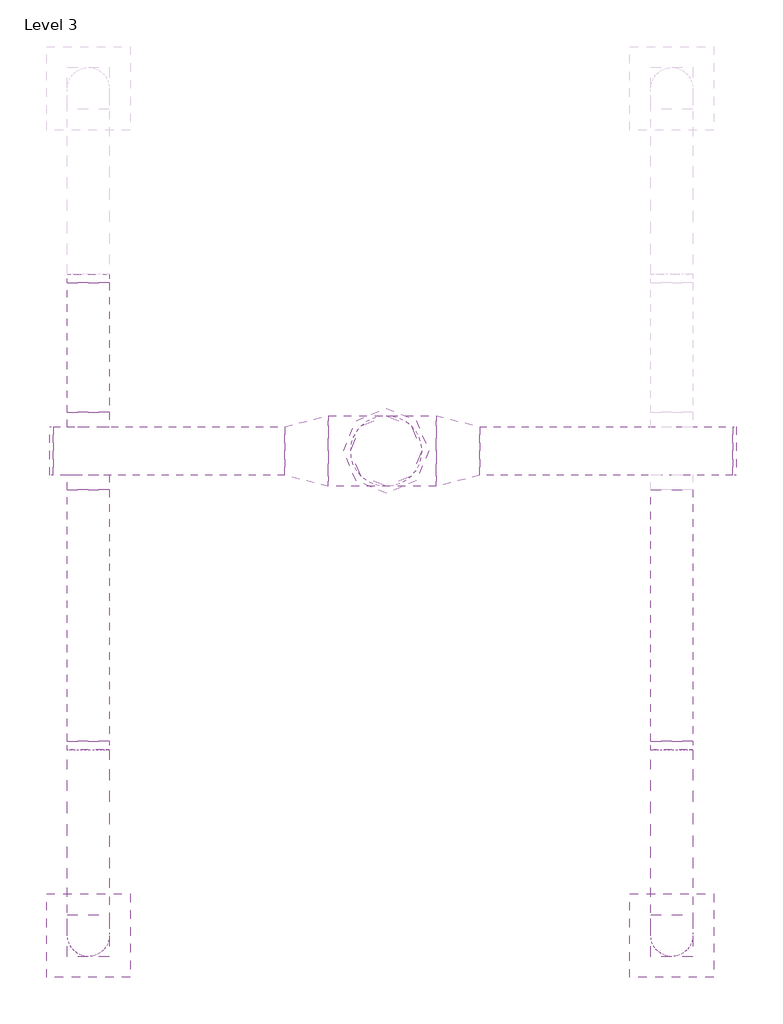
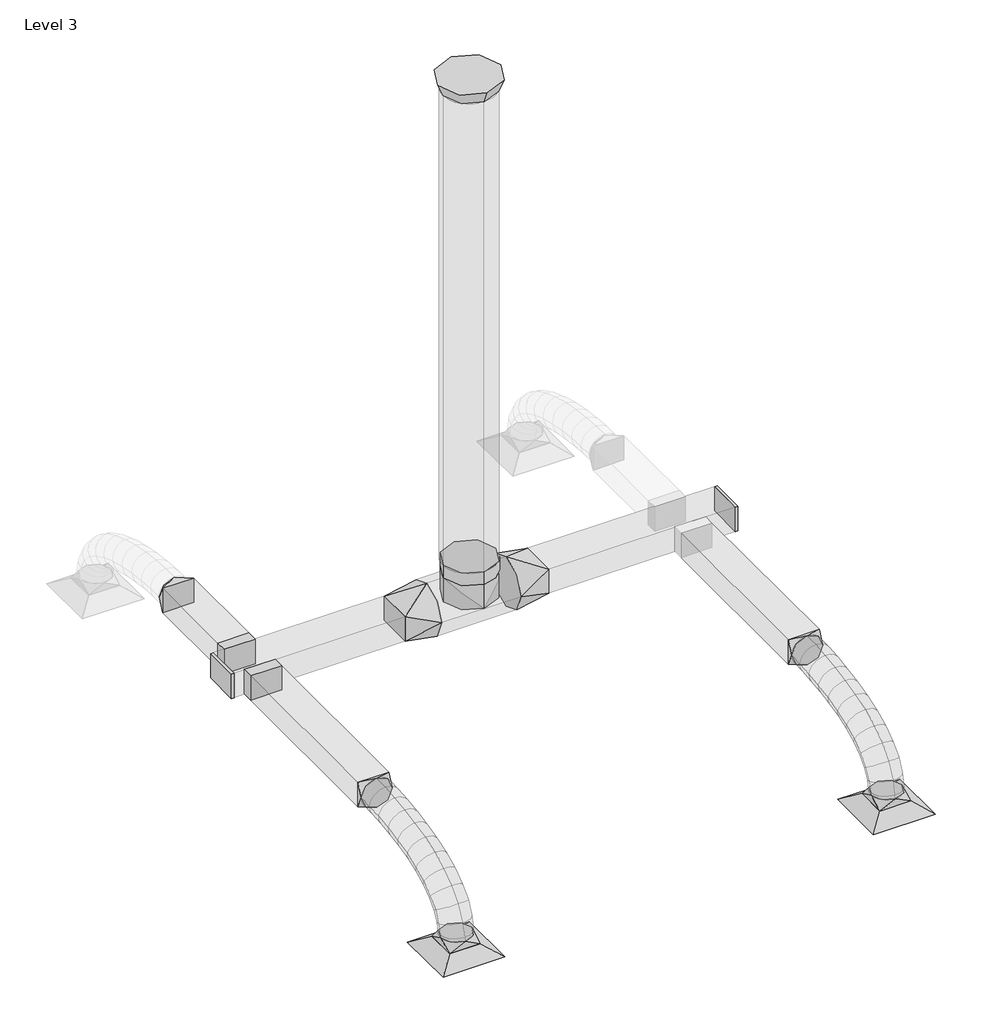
# One storey, part 1 of 2: 13 duct fittings, 9 duct segments, 2 air terminals.
"""IFC4 building model written with IfcOpenShell, lengths in millimetres."""

from ifc_helpers import new_model, si_unit, point, frame, frame_2d, origin, place, context, project, spatial, polyline, circle_curve, ellipse_curve, trimmed, segment, composite_curve, outline, extrude, transform, mapped, element, save
from ifc_brep_helpers import plane_surface, cylinder_surface, advanced_brep
from components import extract_grille_600_x_600_face_300_x_300_connection_2ef68f4f, extract_grille_600_x_600_face_300_x_300_connection_8a0e72a1, rectangular_endcap_standard_a014d959, rectangular_takeoff_standard_6cc22b3a, rectangular_to_round_transition_angle_45_degree_641efff0, rectangular_to_round_transition_angle_45_degree_86e8342e, rectangular_to_round_transition_angle_45_degree_f64e0d1d, round_takeoff_standard_6a2d3c00, round_transition_angle_45_degree_fbcaaa33

model = new_model("IFC4")

# Units and contexts
model_context = context("Model", 3, world=origin())
ifc_project = project(units=[si_unit("LENGTHUNIT", "METRE", prefix="MILLI")], contexts=[model_context])

# Site, building, storey
site = spatial("IfcSite", under=ifc_project)
building = spatial("IfcBuilding", under=site)
storey = spatial("IfcBuildingStorey", under=building, Name="Level 3", Elevation=10795.0)

# Air terminals
placement = place(None, origin())
extract_grille_600_x_600_face_300_x_300_connection_shape = extract_grille_600_x_600_face_300_x_300_connection_2ef68f4f(model_context)
element("IfcAirTerminal", 1, ObjectType="Extract Grille : 600 x 600 Face 300 x 300 Connection", at=placement, inside=storey, context=model_context, shape_type="MappedRepresentation", body=[
    mapped(extract_grille_600_x_600_face_300_x_300_connection_shape, transform((-9996.8271189, -4743.8414421, 13795.0), x_axis=(-1.0, 0.0, 0.0), y_axis=(0.0, -1.0, 0.0), z_axis=(0.0, 0.0, 1.0))),
])
extract_grille_600_x_600_face_300_x_300_connection_2_shape = extract_grille_600_x_600_face_300_x_300_connection_8a0e72a1(model_context)
element("IfcAirTerminal", 2, ObjectType="Extract Grille : 600 x 600 Face 300 x 300 Connection", at=placement, inside=storey, context=model_context, shape_type="MappedRepresentation", body=[
    mapped(extract_grille_600_x_600_face_300_x_300_connection_2_shape, transform((-14175.3843533, -4743.8414421, 13795.0), x_axis=(1.0, 0.0, 0.0), y_axis=(0.0, 1.0, 0.0), z_axis=(0.0, 0.0, 1.0))),
])

# Duct fittings
rectangular_endcap_standard_shape = rectangular_endcap_standard_a014d959(model_context)
element("IfcDuctFitting", 3, ObjectType="Rectangular Endcap : Standard", at=placement, inside=storey, context=model_context, shape_type="MappedRepresentation", body=[
    mapped(rectangular_endcap_standard_shape, transform((-9561.3497202, -1273.030611, 14595.0), x_axis=(1.0, 0.0, 0.0), y_axis=(0.0, 1.0, 0.0), z_axis=(0.0, 0.0, 1.0))),
])
element("IfcDuctFitting", 4, ObjectType="Rectangular Endcap : Standard", at=placement, inside=storey, context=model_context, shape_type="MappedRepresentation", body=[
    mapped(rectangular_endcap_standard_shape, transform((-14428.5896907, -1273.030611, 14595.0), x_axis=(-1.0, 0.0, 0.0), y_axis=(0.0, -1.0, 0.0), z_axis=(0.0, 0.0, 1.0))),
])
rectangular_takeoff_standard_shape = rectangular_takeoff_standard_6cc22b3a(model_context)
element("IfcDuctFitting", 5, ObjectType="Rectangular Takeoff : Standard", at=placement, inside=storey, context=model_context, shape_type="MappedRepresentation", body=[
    mapped(rectangular_takeoff_standard_shape, transform((-14175.3843533, -1448.030611, 14595.0), x_axis=(0.0, -1.0, 0.0), y_axis=(-1.0, 0.0, 0.0), z_axis=(0.0, 0.0, -1.0))),
])
element("IfcDuctFitting", 6, ObjectType="Rectangular Takeoff : Standard", at=placement, inside=storey, context=model_context, shape_type="MappedRepresentation", body=[
    mapped(rectangular_takeoff_standard_shape, transform((-14175.3843533, -1098.030611, 14595.0), x_axis=(0.0, 1.0, 0.0), y_axis=(-1.0, 0.0, 0.0), z_axis=(0.0, 0.0, 1.0))),
])
rectangular_to_round_transition_angle_45_degree_shape = rectangular_to_round_transition_angle_45_degree_641efff0(model_context)
element("IfcDuctFitting", 7, ObjectType="Rectangular to Round Transition - Angle : 45 Degree", at=placement, inside=storey, context=model_context, shape_type="MappedRepresentation", body=[
    mapped(rectangular_to_round_transition_angle_45_degree_shape, transform((-9996.8271189, -4743.8414421, 13895.0), x_axis=(0.0, 0.0, 1.0), y_axis=(-1.0, 0.0, 0.0), z_axis=(0.0, -1.0, 0.0))),
])
element("IfcDuctFitting", 8, ObjectType="Rectangular to Round Transition - Angle : 45 Degree", at=placement, inside=storey, context=model_context, shape_type="MappedRepresentation", body=[
    mapped(rectangular_to_round_transition_angle_45_degree_shape, transform((-14175.3843533, -4743.8414421, 13895.0), x_axis=(0.0, 0.0, 1.0), y_axis=(-1.0, 0.0, 0.0), z_axis=(0.0, -1.0, 0.0))),
])
rectangular_to_round_transition_angle_45_degree_2_shape = rectangular_to_round_transition_angle_45_degree_86e8342e(model_context)
element("IfcDuctFitting", 9, ObjectType="Rectangular to Round Transition - Angle : 45 Degree", at=placement, inside=storey, context=model_context, shape_type="MappedRepresentation", body=[
    mapped(rectangular_to_round_transition_angle_45_degree_2_shape, transform((-12768.5896907, -1273.030611, 14595.0), x_axis=(1.0, 0.0, 0.0), y_axis=(0.0, 1.0, 0.0), z_axis=(0.0, 0.0, 1.0))),
])
element("IfcDuctFitting", 10, ObjectType="Rectangular to Round Transition - Angle : 45 Degree", at=placement, inside=storey, context=model_context, shape_type="MappedRepresentation", body=[
    mapped(rectangular_to_round_transition_angle_45_degree_2_shape, transform((-11372.7832697, -1273.030611, 14595.0), x_axis=(-1.0, 0.0, 0.0), y_axis=(0.0, -1.0, 0.0), z_axis=(0.0, 0.0, 1.0))),
])
rectangular_to_round_transition_angle_45_degree_3_shape = rectangular_to_round_transition_angle_45_degree_f64e0d1d(model_context)
element("IfcDuctFitting", 11, ObjectType="Rectangular to Round Transition - Angle : 45 Degree", at=placement, inside=storey, context=model_context, shape_type="MappedRepresentation", body=[
    mapped(rectangular_to_round_transition_angle_45_degree_3_shape, transform((-14175.3843533, -3351.4375451, 14595.0), x_axis=(0.0, -1.0, 0.0), y_axis=(1.0, 0.0, 0.0), z_axis=(0.0, 0.0, 1.0))),
])
element("IfcDuctFitting", 12, ObjectType="Rectangular to Round Transition - Angle : 45 Degree", at=placement, inside=storey, context=model_context, shape_type="MappedRepresentation", body=[
    mapped(rectangular_to_round_transition_angle_45_degree_3_shape, transform((-14175.3843533, -68.3400331, 14595.0), x_axis=(0.0, 1.0, 0.0), y_axis=(-1.0, 0.0, 0.0), z_axis=(0.0, 0.0, 1.0))),
])
element("IfcDuctFitting", 13, ObjectType="Rectangular to Round Transition - Angle : 45 Degree", at=placement, inside=storey, context=model_context, shape_type="MappedRepresentation", body=[
    mapped(rectangular_to_round_transition_angle_45_degree_3_shape, transform((-9996.8271189, -3351.4375451, 14595.0), x_axis=(0.0, -1.0, 0.0), y_axis=(1.0, 0.0, 0.0), z_axis=(0.0, 0.0, 1.0))),
])
round_takeoff_standard_shape = round_takeoff_standard_6a2d3c00(model_context)
element("IfcDuctFitting", 14, ObjectType="Round Takeoff : Standard", at=placement, inside=storey, context=model_context, shape_type="MappedRepresentation", body=[
    mapped(round_takeoff_standard_shape, transform((-12042.9807361, -1273.030611, 14849.0), x_axis=(0.0, 0.0, 1.0), y_axis=(0.0, -1.0, 0.0), z_axis=(1.0, 0.0, 0.0))),
])
round_transition_angle_45_degree_shape = round_transition_angle_45_degree_fbcaaa33(model_context)
element("IfcDuctFitting", 15, ObjectType="Round Transition - Angle : 45 Degree", at=placement, inside=storey, context=model_context, shape_type="MappedRepresentation", body=[
    mapped(round_transition_angle_45_degree_shape, transform((-12042.9807361, -1273.030611, 19797.3506889), x_axis=(0.0, 0.0, 1.0), y_axis=(0.0, -1.0, 0.0), z_axis=(1.0, 0.0, 0.0))),
])

# Duct segments
element("IfcDuctSegment", 16, ObjectType="Flex - Round", at=placement, inside=storey, context=model_context, shape_type="AdvancedBrep", body=[
    advanced_brep(
    [(-9846.8271189, -4743.8414421, 13970.0), (-9996.8271189, -4893.8414421, 13970.0), (-10146.8271189, -4743.8414421, 13970.0), (-9996.8271189, -4593.8414421, 13970.0), (-9846.8271189, -4743.8414421, 13993.6443246), (-9996.8271189, -4893.8414421, 14008.2658212), (-10146.8271189, -4743.8414421, 13993.6443246), (-9996.8271189, -4593.8414421, 13979.0228281), (-9846.8271189, -4723.8717652, 14095.1041731), (-9996.8271189, -4866.8969651, 14145.162506), (-10146.8271189, -4723.8717652, 14095.1041731), (-9996.8271189, -4580.8465654, 14045.0458401), (-9846.8271189, -4667.5471392, 14203.5571901), (-9996.8271189, -4791.0678506, 14291.171398), (-10146.8271189, -4667.5471392, 14203.5571901), (-9996.8271189, -4544.0264277, 14115.9429823), (-9846.8271189, -4580.2441705, 14296.3570371), (-9996.8271189, -4678.6394763, 14410.6786277), (-10146.8271189, -4580.2441705, 14296.3570371), (-9996.8271189, -4481.8488647, 14182.0354465), (-9846.8271189, -4467.3394659, 14374.5016999), (-9996.8271189, -4543.1691982, 14504.4415868), (-10146.8271189, -4467.3394659, 14374.5016999), (-9996.8271189, -4391.5097336, 14244.561813), (-9846.8271189, -4334.209632, 14438.9891644), (-9996.8271189, -4391.8847498, 14577.7230611), (-10146.8271189, -4334.209632, 14438.9891644), (-9996.8271189, -4276.5345142, 14300.2552678), (-9846.8271189, -4186.2312753, 14490.8174166), (-9996.8271189, -4229.6445513, 14634.5464109), (-10146.8271189, -4186.2312753, 14490.8174166), (-9996.8271189, -4142.8179994, 14347.0884224), (-9846.8271189, -4028.7810027, 14530.9844424), (-9996.8271189, -4060.8334144, 14677.6116986), (-10146.8271189, -4028.7810027, 14530.9844424), (-9996.8271189, -3996.7285909, 14384.3571863), (-9846.8271189, -3867.2354206, 14560.4882277), (-9996.8271189, -3889.9425265, 14708.8222585), (-10146.8271189, -3867.2354206, 14560.4882277), (-9996.8271189, -3844.5283146, 14412.154197), (-9846.8271189, -3706.9711357, 14580.3267585), (-9996.8271189, -3721.6342823, 14729.6565216), (-10146.8271189, -3706.9711357, 14580.3267585), (-9996.8271189, -3692.3079891, 14430.9969954), (-9846.8271189, -3553.3647547, 14591.4980206), (-9996.8271189, -3560.7135036, 14741.3597346), (-10146.8271189, -3553.3647547, 14591.4980206), (-9996.8271189, -3546.0160058, 14441.6363066), (-9846.8271189, -3415.5022105, 14595.0), (-9996.8271189, -3417.4070506, 14745.0), (-10146.8271189, -3415.5022105, 14595.0), (-9996.8271189, -3413.5973705, 14445.0), (-9846.8271189, -3411.7928842, 14595.0), (-9996.8271189, -3411.7928842, 14745.0), (-10146.8271189, -3411.7928842, 14595.0), (-9996.8271189, -3411.7928842, 14445.0)],
    [
        (0, 1, circle_curve(frame((-9996.8271189, -4743.8414421, 13970.0), z_axis=(0.0, 0.0, -1.0), x_axis=(1.0, 0.0, 0.0)), 150.0)),
        (1, 2, circle_curve(frame((-9996.8271189, -4743.8414421, 13970.0), z_axis=(0.0, 0.0, -1.0), x_axis=(1.0, 0.0, 0.0)), 150.0)),
        (2, 3, circle_curve(frame((-9996.8271189, -4743.8414421, 13970.0), z_axis=(0.0, 0.0, -1.0), x_axis=(1.0, 0.0, 0.0)), 150.0)),
        (3, 0, circle_curve(frame((-9996.8271189, -4743.8414421, 13970.0), z_axis=(0.0, 0.0, -1.0), x_axis=(1.0, 0.0, 0.0)), 150.0)),
        (0, 4),
        (4, 5, ellipse_curve(frame((-9996.8271189, -4743.8414421, 13993.6443246), z_axis=(0.0, -0.09701682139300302, -0.9952827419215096), x_axis=(0.0, 0.9952827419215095, -0.09701682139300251)), 150.7109424, 150.0)),
        (5, 1),
        (5, 6, ellipse_curve(frame((-9996.8271189, -4743.8414421, 13993.6443246), z_axis=(0.0, -0.09701682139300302, -0.9952827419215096), x_axis=(0.0, 0.9952827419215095, -0.09701682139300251)), 150.7109424, 150.0)),
        (6, 2),
        (6, 7, ellipse_curve(frame((-9996.8271189, -4743.8414421, 13993.6443246), z_axis=(0.0, -0.09701682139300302, -0.9952827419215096), x_axis=(0.0, 0.9952827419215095, -0.09701682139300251)), 150.7109424, 150.0)),
        (7, 3),
        (7, 4, ellipse_curve(frame((-9996.8271189, -4743.8414421, 13993.6443246), z_axis=(0.0, -0.09701682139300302, -0.9952827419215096), x_axis=(0.0, 0.9952827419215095, -0.09701682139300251)), 150.7109424, 150.0)),
        (4, 8),
        (8, 9, ellipse_curve(frame((-9996.8271189, -4723.8717652, 14095.1041731), z_axis=(0.0, -0.3303475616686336, -0.9438593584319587), x_axis=(0.0, 0.9438593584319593, -0.33034756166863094)), 151.5323216, 150.0)),
        (9, 5),
        (9, 10, ellipse_curve(frame((-9996.8271189, -4723.8717652, 14095.1041731), z_axis=(0.0, -0.3303475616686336, -0.9438593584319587), x_axis=(0.0, 0.9438593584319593, -0.33034756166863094)), 151.5323216, 150.0)),
        (10, 6),
        (10, 11, ellipse_curve(frame((-9996.8271189, -4723.8717652, 14095.1041731), z_axis=(0.0, -0.3303475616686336, -0.9438593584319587), x_axis=(0.0, 0.9438593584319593, -0.33034756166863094)), 151.5323216, 150.0)),
        (11, 7),
        (11, 8, ellipse_curve(frame((-9996.8271189, -4723.8717652, 14095.1041731), z_axis=(0.0, -0.3303475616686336, -0.9438593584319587), x_axis=(0.0, 0.9438593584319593, -0.33034756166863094)), 151.5323216, 150.0)),
        (8, 12),
        (12, 13, ellipse_curve(frame((-9996.8271189, -4667.5471392, 14203.5571901), z_axis=(0.0, -0.5785465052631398, -0.8156493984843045), x_axis=(0.0, 0.8156493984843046, -0.5785465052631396)), 151.4384877, 150.0)),
        (13, 9),
        (13, 14, ellipse_curve(frame((-9996.8271189, -4667.5471392, 14203.5571901), z_axis=(0.0, -0.5785465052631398, -0.8156493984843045), x_axis=(0.0, 0.8156493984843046, -0.5785465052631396)), 151.4384877, 150.0)),
        (14, 10),
        (14, 15, ellipse_curve(frame((-9996.8271189, -4667.5471392, 14203.5571901), z_axis=(0.0, -0.5785465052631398, -0.8156493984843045), x_axis=(0.0, 0.8156493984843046, -0.5785465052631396)), 151.4384877, 150.0)),
        (15, 11),
        (15, 12, ellipse_curve(frame((-9996.8271189, -4667.5471392, 14203.5571901), z_axis=(0.0, -0.5785465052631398, -0.8156493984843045), x_axis=(0.0, 0.8156493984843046, -0.5785465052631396)), 151.4384877, 150.0)),
        (12, 16),
        (16, 17, ellipse_curve(frame((-9996.8271189, -4580.2441705, 14296.3570371), z_axis=(0.0, -0.7579270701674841, -0.6523392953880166), x_axis=(0.0, 0.6523392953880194, -0.7579270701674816)), 150.8345527, 150.0)),
        (17, 13),
        (17, 18, ellipse_curve(frame((-9996.8271189, -4580.2441705, 14296.3570371), z_axis=(0.0, -0.7579270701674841, -0.6523392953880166), x_axis=(0.0, 0.6523392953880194, -0.7579270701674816)), 150.8345527, 150.0)),
        (18, 14),
        (18, 19, ellipse_curve(frame((-9996.8271189, -4580.2441705, 14296.3570371), z_axis=(0.0, -0.7579270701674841, -0.6523392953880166), x_axis=(0.0, 0.6523392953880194, -0.7579270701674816)), 150.8345527, 150.0)),
        (19, 15),
        (19, 16, ellipse_curve(frame((-9996.8271189, -4580.2441705, 14296.3570371), z_axis=(0.0, -0.7579270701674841, -0.6523392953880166), x_axis=(0.0, 0.6523392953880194, -0.7579270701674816)), 150.8345527, 150.0)),
        (16, 20),
        (20, 21, ellipse_curve(frame((-9996.8271189, -4467.3394659, 14374.5016999), z_axis=(0.0, -0.8636878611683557, -0.5040270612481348), x_axis=(0.0, 0.5040270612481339, -0.8636878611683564)), 150.4477401, 150.0)),
        (21, 17),
        (21, 22, ellipse_curve(frame((-9996.8271189, -4467.3394659, 14374.5016999), z_axis=(0.0, -0.8636878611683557, -0.5040270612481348), x_axis=(0.0, 0.5040270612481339, -0.8636878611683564)), 150.4477401, 150.0)),
        (22, 18),
        (22, 23, ellipse_curve(frame((-9996.8271189, -4467.3394659, 14374.5016999), z_axis=(0.0, -0.8636878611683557, -0.5040270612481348), x_axis=(0.0, 0.5040270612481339, -0.8636878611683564)), 150.4477401, 150.0)),
        (23, 19),
        (23, 20, ellipse_curve(frame((-9996.8271189, -4467.3394659, 14374.5016999), z_axis=(0.0, -0.8636878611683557, -0.5040270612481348), x_axis=(0.0, 0.5040270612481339, -0.8636878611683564)), 150.4477401, 150.0)),
        (20, 24),
        (24, 25, ellipse_curve(frame((-9996.8271189, -4334.209632, 14438.9891644), z_axis=(0.0, -0.9233854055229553, -0.3838741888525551), x_axis=(0.0, 0.38387418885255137, -0.9233854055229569)), 150.2448445, 150.0)),
        (25, 21),
        (25, 26, ellipse_curve(frame((-9996.8271189, -4334.209632, 14438.9891644), z_axis=(0.0, -0.9233854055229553, -0.3838741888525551), x_axis=(0.0, 0.38387418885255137, -0.9233854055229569)), 150.2448445, 150.0)),
        (26, 22),
        (26, 27, ellipse_curve(frame((-9996.8271189, -4334.209632, 14438.9891644), z_axis=(0.0, -0.9233854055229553, -0.3838741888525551), x_axis=(0.0, 0.38387418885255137, -0.9233854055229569)), 150.2448445, 150.0)),
        (27, 23),
        (27, 24, ellipse_curve(frame((-9996.8271189, -4334.209632, 14438.9891644), z_axis=(0.0, -0.9233854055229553, -0.3838741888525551), x_axis=(0.0, 0.38387418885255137, -0.9233854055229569)), 150.2448445, 150.0)),
        (24, 28),
        (28, 29, ellipse_curve(frame((-9996.8271189, -4186.2312753, 14490.8174166), z_axis=(0.0, -0.9572845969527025, -0.289147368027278), x_axis=(0.0, 0.289147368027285, -0.9572845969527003)), 150.1423868, 150.0)),
        (29, 25),
        (29, 30, ellipse_curve(frame((-9996.8271189, -4186.2312753, 14490.8174166), z_axis=(0.0, -0.9572845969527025, -0.289147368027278), x_axis=(0.0, 0.289147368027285, -0.9572845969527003)), 150.1423868, 150.0)),
        (30, 26),
        (30, 31, ellipse_curve(frame((-9996.8271189, -4186.2312753, 14490.8174166), z_axis=(0.0, -0.9572845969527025, -0.289147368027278), x_axis=(0.0, 0.289147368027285, -0.9572845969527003)), 150.1423868, 150.0)),
        (31, 27),
        (31, 28, ellipse_curve(frame((-9996.8271189, -4186.2312753, 14490.8174166), z_axis=(0.0, -0.9572845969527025, -0.289147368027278), x_axis=(0.0, 0.289147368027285, -0.9572845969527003)), 150.1423868, 150.0)),
        (28, 32),
        (32, 33, ellipse_curve(frame((-9996.8271189, -4028.7810027, 14530.9844424), z_axis=(0.0, -0.9769310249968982, -0.21355508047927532), x_axis=(0.0, 0.2135550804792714, -0.9769310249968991)), 150.089671, 150.0)),
        (33, 29),
        (33, 34, ellipse_curve(frame((-9996.8271189, -4028.7810027, 14530.9844424), z_axis=(0.0, -0.9769310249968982, -0.21355508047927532), x_axis=(0.0, 0.2135550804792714, -0.9769310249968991)), 150.089671, 150.0)),
        (34, 30),
        (34, 35, ellipse_curve(frame((-9996.8271189, -4028.7810027, 14530.9844424), z_axis=(0.0, -0.9769310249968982, -0.21355508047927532), x_axis=(0.0, 0.2135550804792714, -0.9769310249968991)), 150.089671, 150.0)),
        (35, 31),
        (35, 32, ellipse_curve(frame((-9996.8271189, -4028.7810027, 14530.9844424), z_axis=(0.0, -0.9769310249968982, -0.21355508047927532), x_axis=(0.0, 0.2135550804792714, -0.9769310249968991)), 150.089671, 150.0)),
        (32, 36),
        (36, 37, ellipse_curve(frame((-9996.8271189, -3867.2354206, 14560.4882277), z_axis=(0.0, -0.9884851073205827, -0.15131818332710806), x_axis=(0.0, 0.15131818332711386, -0.9884851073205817)), 150.0619783, 150.0)),
        (37, 33),
        (37, 38, ellipse_curve(frame((-9996.8271189, -3867.2354206, 14560.4882277), z_axis=(0.0, -0.9884851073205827, -0.15131818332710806), x_axis=(0.0, 0.15131818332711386, -0.9884851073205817)), 150.0619783, 150.0)),
        (38, 34),
        (38, 39, ellipse_curve(frame((-9996.8271189, -3867.2354206, 14560.4882277), z_axis=(0.0, -0.9884851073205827, -0.15131818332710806), x_axis=(0.0, 0.15131818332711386, -0.9884851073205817)), 150.0619783, 150.0)),
        (39, 35),
        (39, 36, ellipse_curve(frame((-9996.8271189, -3867.2354206, 14560.4882277), z_axis=(0.0, -0.9884851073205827, -0.15131818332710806), x_axis=(0.0, 0.15131818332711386, -0.9884851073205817)), 150.0619783, 150.0)),
        (36, 40),
        (40, 41, ellipse_curve(frame((-9996.8271189, -3706.9711357, 14580.3267585), z_axis=(0.0, -0.9952136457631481, -0.09772307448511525), x_axis=(0.0, 0.09772307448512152, -0.9952136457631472)), 150.0479457, 150.0)),
        (41, 37),
        (41, 42, ellipse_curve(frame((-9996.8271189, -3706.9711357, 14580.3267585), z_axis=(0.0, -0.9952136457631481, -0.09772307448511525), x_axis=(0.0, 0.09772307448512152, -0.9952136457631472)), 150.0479457, 150.0)),
        (42, 38),
        (42, 43, ellipse_curve(frame((-9996.8271189, -3706.9711357, 14580.3267585), z_axis=(0.0, -0.9952136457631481, -0.09772307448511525), x_axis=(0.0, 0.09772307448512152, -0.9952136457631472)), 150.0479457, 150.0)),
        (43, 39),
        (43, 40, ellipse_curve(frame((-9996.8271189, -3706.9711357, 14580.3267585), z_axis=(0.0, -0.9952136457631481, -0.09772307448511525), x_axis=(0.0, 0.09772307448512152, -0.9952136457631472)), 150.0479457, 150.0)),
        (40, 44),
        (44, 45, ellipse_curve(frame((-9996.8271189, -3553.3647547, 14591.4980206), z_axis=(0.0, -0.9987998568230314, -0.048978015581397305), x_axis=(0.0, 0.04897801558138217, -0.9987998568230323)), 150.0417856, 150.0)),
        (45, 41),
        (45, 46, ellipse_curve(frame((-9996.8271189, -3553.3647547, 14591.4980206), z_axis=(0.0, -0.9987998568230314, -0.048978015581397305), x_axis=(0.0, 0.04897801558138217, -0.9987998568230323)), 150.0417856, 150.0)),
        (46, 42),
        (46, 47, ellipse_curve(frame((-9996.8271189, -3553.3647547, 14591.4980206), z_axis=(0.0, -0.9987998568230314, -0.048978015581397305), x_axis=(0.0, 0.04897801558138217, -0.9987998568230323)), 150.0417856, 150.0)),
        (47, 43),
        (47, 44, ellipse_curve(frame((-9996.8271189, -3553.3647547, 14591.4980206), z_axis=(0.0, -0.9987998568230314, -0.048978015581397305), x_axis=(0.0, 0.04897801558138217, -0.9987998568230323)), 150.0417856, 150.0)),
        (44, 48),
        (48, 49, ellipse_curve(frame((-9996.8271189, -3415.5022105, 14595.0), z_axis=(0.0, -0.9999193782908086, -0.012697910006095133), x_axis=(0.0, 0.012697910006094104, -0.9999193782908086)), 150.0120942, 150.0)),
        (49, 45),
        (49, 50, ellipse_curve(frame((-9996.8271189, -3415.5022105, 14595.0), z_axis=(0.0, -0.9999193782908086, -0.012697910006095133), x_axis=(0.0, 0.012697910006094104, -0.9999193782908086)), 150.0120942, 150.0)),
        (50, 46),
        (50, 51, ellipse_curve(frame((-9996.8271189, -3415.5022105, 14595.0), z_axis=(0.0, -0.9999193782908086, -0.012697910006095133), x_axis=(0.0, 0.012697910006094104, -0.9999193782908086)), 150.0120942, 150.0)),
        (51, 47),
        (51, 48, ellipse_curve(frame((-9996.8271189, -3415.5022105, 14595.0), z_axis=(0.0, -0.9999193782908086, -0.012697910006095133), x_axis=(0.0, 0.012697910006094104, -0.9999193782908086)), 150.0120942, 150.0)),
        (48, 52),
        (52, 53, circle_curve(frame((-9996.8271189, -3411.7928842, 14595.0), z_axis=(0.0, -1.0, 0.0), x_axis=(1.0, 0.0, 0.0)), 150.0)),
        (53, 49),
        (53, 54, circle_curve(frame((-9996.8271189, -3411.7928842, 14595.0), z_axis=(0.0, -1.0, 0.0), x_axis=(1.0, 0.0, 0.0)), 150.0)),
        (54, 50),
        (54, 55, circle_curve(frame((-9996.8271189, -3411.7928842, 14595.0), z_axis=(0.0, -1.0, 0.0), x_axis=(1.0, 0.0, 0.0)), 150.0)),
        (55, 51),
        (55, 52, circle_curve(frame((-9996.8271189, -3411.7928842, 14595.0), z_axis=(0.0, -1.0, 0.0), x_axis=(1.0, 0.0, 0.0)), 150.0)),
    ],
    [
        plane_surface(frame((-9996.8271189, -4893.8414421, 13970.0), z_axis=(0.0, 0.0, -1.0), x_axis=(1.0, 0.0, 0.0))),
        cylinder_surface(frame((-9996.8271189, -4743.8414421, 13970.0), z_axis=(0.0, 0.0, -1.0), x_axis=(1.0, 0.0, 0.0)), 150.0),
        cylinder_surface(frame((-9996.8271189, -4743.8414421, 13993.6443246), z_axis=(0.0, -0.19311833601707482, -0.9811754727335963), x_axis=(1.0, 0.0, 0.0)), 150.0),
        cylinder_surface(frame((-9996.8271189, -4723.8717652, 14095.1041731), z_axis=(0.0, -0.4608957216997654, -0.8874542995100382), x_axis=(1.0, 0.0, 0.0)), 150.0),
        cylinder_surface(frame((-9996.8271189, -4667.5471392, 14203.5571901), z_axis=(0.0, -0.6852062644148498, -0.7283490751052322), x_axis=(1.0, 0.0, 0.0)), 150.0),
        cylinder_surface(frame((-9996.8271189, -4580.2441705, 14296.3570371), z_axis=(0.0, -0.8222608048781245, -0.5691108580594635), x_axis=(1.0, 0.0, 0.0)), 150.0),
        cylinder_surface(frame((-9996.8271189, -4467.3394659, 14374.5016999), z_axis=(0.0, -0.8999741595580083, -0.4359432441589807), x_axis=(1.0, 0.0, 0.0)), 150.0),
        cylinder_surface(frame((-9996.8271189, -4334.209632, 14438.9891644), z_axis=(0.0, -0.9437870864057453, -0.3305539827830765), x_axis=(1.0, 0.0, 0.0)), 150.0),
        cylinder_surface(frame((-9996.8271189, -4186.2312753, 14490.8174166), z_axis=(0.0, -0.9689664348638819, -0.24719233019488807), x_axis=(1.0, 0.0, 0.0)), 150.0),
        cylinder_surface(frame((-9996.8271189, -4028.7810027, 14530.9844424), z_axis=(0.0, -0.9837282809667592, -0.17966265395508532), x_axis=(1.0, 0.0, 0.0)), 150.0),
        cylinder_surface(frame((-9996.8271189, -3867.2354206, 14560.4882277), z_axis=(0.0, -0.9924254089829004, -0.12284871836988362), x_axis=(1.0, 0.0, 0.0)), 150.0),
        cylinder_surface(frame((-9996.8271189, -3706.9711357, 14580.3267585), z_axis=(0.0, -0.997365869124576, -0.0725349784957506), x_axis=(1.0, 0.0, 0.0)), 150.0),
        cylinder_surface(frame((-9996.8271189, -3553.3647547, 14591.4980206), z_axis=(0.0, -0.9996775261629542, -0.02539377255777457), x_axis=(1.0, 0.0, 0.0)), 150.0),
        cylinder_surface(frame((-9996.8271189, -3415.5022105, 14595.0), z_axis=(0.0, -1.0, 0.0), x_axis=(1.0, 0.0, 0.0)), 150.0),
        plane_surface(frame((-10146.8271189, -3411.7928842, 14595.0), z_axis=(0.0, 1.0, 0.0), x_axis=(0.0, 0.0, 1.0))),
    ],
    [
        (0, [[1, 2, 3, 4]]),
        (1, [[-1, 5, 6, 7]]),
        (1, [[-2, -7, 8, 9]]),
        (1, [[-3, -9, 10, 11]]),
        (1, [[-4, -11, 12, -5]]),
        (2, [[-6, 13, 14, 15]]),
        (2, [[-8, -15, 16, 17]]),
        (2, [[-10, -17, 18, 19]]),
        (2, [[-12, -19, 20, -13]]),
        (3, [[-14, 21, 22, 23]]),
        (3, [[-16, -23, 24, 25]]),
        (3, [[-18, -25, 26, 27]]),
        (3, [[-20, -27, 28, -21]]),
        (4, [[-22, 29, 30, 31]]),
        (4, [[-24, -31, 32, 33]]),
        (4, [[-26, -33, 34, 35]]),
        (4, [[-28, -35, 36, -29]]),
        (5, [[-30, 37, 38, 39]]),
        (5, [[-32, -39, 40, 41]]),
        (5, [[-34, -41, 42, 43]]),
        (5, [[-36, -43, 44, -37]]),
        (6, [[-38, 45, 46, 47]]),
        (6, [[-40, -47, 48, 49]]),
        (6, [[-42, -49, 50, 51]]),
        (6, [[-44, -51, 52, -45]]),
        (7, [[-46, 53, 54, 55]]),
        (7, [[-48, -55, 56, 57]]),
        (7, [[-50, -57, 58, 59]]),
        (7, [[-52, -59, 60, -53]]),
        (8, [[-54, 61, 62, 63]]),
        (8, [[-56, -63, 64, 65]]),
        (8, [[-58, -65, 66, 67]]),
        (8, [[-60, -67, 68, -61]]),
        (9, [[-62, 69, 70, 71]]),
        (9, [[-64, -71, 72, 73]]),
        (9, [[-66, -73, 74, 75]]),
        (9, [[-68, -75, 76, -69]]),
        (10, [[-70, 77, 78, 79]]),
        (10, [[-72, -79, 80, 81]]),
        (10, [[-74, -81, 82, 83]]),
        (10, [[-76, -83, 84, -77]]),
        (11, [[-78, 85, 86, 87]]),
        (11, [[-80, -87, 88, 89]]),
        (11, [[-82, -89, 90, 91]]),
        (11, [[-84, -91, 92, -85]]),
        (12, [[-86, 93, 94, 95]]),
        (12, [[-88, -95, 96, 97]]),
        (12, [[-90, -97, 98, 99]]),
        (12, [[-92, -99, 100, -93]]),
        (13, [[-94, 101, 102, 103]]),
        (13, [[-96, -103, 104, 105]]),
        (13, [[-98, -105, 106, 107]]),
        (13, [[-100, -107, 108, -101]]),
        (14, [[-108, -106, -104, -102]]),
    ],
),
])
element("IfcDuctSegment", 17, ObjectType="Flex - Round", at=placement, inside=storey, context=model_context, shape_type="AdvancedBrep", body=[
    advanced_brep(
    [(-14025.3843533, -4743.8414421, 13970.0), (-14175.3843533, -4893.8414421, 13970.0), (-14325.3843533, -4743.8414421, 13970.0), (-14175.3843533, -4593.8414421, 13970.0), (-14025.3843533, -4743.8414421, 13993.6443246), (-14175.3843533, -4893.8414421, 14008.2658212), (-14325.3843533, -4743.8414421, 13993.6443246), (-14175.3843533, -4593.8414421, 13979.0228281), (-14025.3843533, -4723.8717652, 14095.1041731), (-14175.3843533, -4866.8969651, 14145.162506), (-14325.3843533, -4723.8717652, 14095.1041731), (-14175.3843533, -4580.8465654, 14045.0458401), (-14025.3843533, -4667.5471392, 14203.5571901), (-14175.3843533, -4791.0678506, 14291.171398), (-14325.3843533, -4667.5471392, 14203.5571901), (-14175.3843533, -4544.0264277, 14115.9429823), (-14025.3843533, -4580.2441705, 14296.3570371), (-14175.3843533, -4678.6394763, 14410.6786277), (-14325.3843533, -4580.2441705, 14296.3570371), (-14175.3843533, -4481.8488647, 14182.0354465), (-14025.3843533, -4467.3394659, 14374.5016999), (-14175.3843533, -4543.1691982, 14504.4415868), (-14325.3843533, -4467.3394659, 14374.5016999), (-14175.3843533, -4391.5097336, 14244.561813), (-14025.3843533, -4334.209632, 14438.9891644), (-14175.3843533, -4391.8847498, 14577.7230611), (-14325.3843533, -4334.209632, 14438.9891644), (-14175.3843533, -4276.5345142, 14300.2552678), (-14025.3843533, -4186.2312753, 14490.8174166), (-14175.3843533, -4229.6445513, 14634.5464109), (-14325.3843533, -4186.2312753, 14490.8174166), (-14175.3843533, -4142.8179994, 14347.0884224), (-14025.3843533, -4028.7810027, 14530.9844424), (-14175.3843533, -4060.8334144, 14677.6116986), (-14325.3843533, -4028.7810027, 14530.9844424), (-14175.3843533, -3996.7285909, 14384.3571863), (-14025.3843533, -3867.2354206, 14560.4882277), (-14175.3843533, -3889.9425265, 14708.8222585), (-14325.3843533, -3867.2354206, 14560.4882277), (-14175.3843533, -3844.5283146, 14412.154197), (-14025.3843533, -3706.9711357, 14580.3267585), (-14175.3843533, -3721.6342823, 14729.6565216), (-14325.3843533, -3706.9711357, 14580.3267585), (-14175.3843533, -3692.3079891, 14430.9969954), (-14025.3843533, -3553.3647547, 14591.4980206), (-14175.3843533, -3560.7135036, 14741.3597346), (-14325.3843533, -3553.3647547, 14591.4980206), (-14175.3843533, -3546.0160058, 14441.6363066), (-14025.3843533, -3415.5022105, 14595.0), (-14175.3843533, -3417.4070506, 14745.0), (-14325.3843533, -3415.5022105, 14595.0), (-14175.3843533, -3413.5973705, 14445.0), (-14025.3843533, -3411.7928842, 14595.0), (-14175.3843533, -3411.7928842, 14745.0), (-14325.3843533, -3411.7928842, 14595.0), (-14175.3843533, -3411.7928842, 14445.0)],
    [
        (0, 1, circle_curve(frame((-14175.3843533, -4743.8414421, 13970.0), z_axis=(0.0, 0.0, -1.0), x_axis=(1.0, 0.0, 0.0)), 150.0)),
        (1, 2, circle_curve(frame((-14175.3843533, -4743.8414421, 13970.0), z_axis=(0.0, 0.0, -1.0), x_axis=(1.0, 0.0, 0.0)), 150.0)),
        (2, 3, circle_curve(frame((-14175.3843533, -4743.8414421, 13970.0), z_axis=(0.0, 0.0, -1.0), x_axis=(1.0, 0.0, 0.0)), 150.0)),
        (3, 0, circle_curve(frame((-14175.3843533, -4743.8414421, 13970.0), z_axis=(0.0, 0.0, -1.0), x_axis=(1.0, 0.0, 0.0)), 150.0)),
        (0, 4),
        (4, 5, ellipse_curve(frame((-14175.3843533, -4743.8414421, 13993.6443246), z_axis=(0.0, -0.09701682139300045, -0.9952827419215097), x_axis=(0.0, 0.9952827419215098, -0.09701682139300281)), 150.7109424, 150.0)),
        (5, 1),
        (5, 6, ellipse_curve(frame((-14175.3843533, -4743.8414421, 13993.6443246), z_axis=(0.0, -0.09701682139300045, -0.9952827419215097), x_axis=(0.0, 0.9952827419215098, -0.09701682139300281)), 150.7109424, 150.0)),
        (6, 2),
        (6, 7, ellipse_curve(frame((-14175.3843533, -4743.8414421, 13993.6443246), z_axis=(0.0, -0.09701682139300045, -0.9952827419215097), x_axis=(0.0, 0.9952827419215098, -0.09701682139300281)), 150.7109424, 150.0)),
        (7, 3),
        (7, 4, ellipse_curve(frame((-14175.3843533, -4743.8414421, 13993.6443246), z_axis=(0.0, -0.09701682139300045, -0.9952827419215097), x_axis=(0.0, 0.9952827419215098, -0.09701682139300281)), 150.7109424, 150.0)),
        (4, 8),
        (8, 9, ellipse_curve(frame((-14175.3843533, -4723.8717652, 14095.1041731), z_axis=(0.0, -0.3303475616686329, -0.9438593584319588), x_axis=(0.0, 0.9438593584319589, -0.33034756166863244)), 151.5323216, 150.0)),
        (9, 5),
        (9, 10, ellipse_curve(frame((-14175.3843533, -4723.8717652, 14095.1041731), z_axis=(0.0, -0.3303475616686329, -0.9438593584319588), x_axis=(0.0, 0.9438593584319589, -0.33034756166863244)), 151.5323216, 150.0)),
        (10, 6),
        (10, 11, ellipse_curve(frame((-14175.3843533, -4723.8717652, 14095.1041731), z_axis=(0.0, -0.3303475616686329, -0.9438593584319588), x_axis=(0.0, 0.9438593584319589, -0.33034756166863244)), 151.5323216, 150.0)),
        (11, 7),
        (11, 8, ellipse_curve(frame((-14175.3843533, -4723.8717652, 14095.1041731), z_axis=(0.0, -0.3303475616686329, -0.9438593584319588), x_axis=(0.0, 0.9438593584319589, -0.33034756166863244)), 151.5323216, 150.0)),
        (8, 12),
        (12, 13, ellipse_curve(frame((-14175.3843533, -4667.5471392, 14203.5571901), z_axis=(0.0, -0.5785465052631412, -0.8156493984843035), x_axis=(0.0, 0.8156493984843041, -0.5785465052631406)), 151.4384877, 150.0)),
        (13, 9),
        (13, 14, ellipse_curve(frame((-14175.3843533, -4667.5471392, 14203.5571901), z_axis=(0.0, -0.5785465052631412, -0.8156493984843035), x_axis=(0.0, 0.8156493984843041, -0.5785465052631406)), 151.4384877, 150.0)),
        (14, 10),
        (14, 15, ellipse_curve(frame((-14175.3843533, -4667.5471392, 14203.5571901), z_axis=(0.0, -0.5785465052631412, -0.8156493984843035), x_axis=(0.0, 0.8156493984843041, -0.5785465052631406)), 151.4384877, 150.0)),
        (15, 11),
        (15, 12, ellipse_curve(frame((-14175.3843533, -4667.5471392, 14203.5571901), z_axis=(0.0, -0.5785465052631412, -0.8156493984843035), x_axis=(0.0, 0.8156493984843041, -0.5785465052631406)), 151.4384877, 150.0)),
        (12, 16),
        (16, 17, ellipse_curve(frame((-14175.3843533, -4580.2441705, 14296.3570371), z_axis=(0.0, -0.7579270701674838, -0.6523392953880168), x_axis=(0.0, 0.6523392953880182, -0.7579270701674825)), 150.8345527, 150.0)),
        (17, 13),
        (17, 18, ellipse_curve(frame((-14175.3843533, -4580.2441705, 14296.3570371), z_axis=(0.0, -0.7579270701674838, -0.6523392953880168), x_axis=(0.0, 0.6523392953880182, -0.7579270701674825)), 150.8345527, 150.0)),
        (18, 14),
        (18, 19, ellipse_curve(frame((-14175.3843533, -4580.2441705, 14296.3570371), z_axis=(0.0, -0.7579270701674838, -0.6523392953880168), x_axis=(0.0, 0.6523392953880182, -0.7579270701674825)), 150.8345527, 150.0)),
        (19, 15),
        (19, 16, ellipse_curve(frame((-14175.3843533, -4580.2441705, 14296.3570371), z_axis=(0.0, -0.7579270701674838, -0.6523392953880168), x_axis=(0.0, 0.6523392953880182, -0.7579270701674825)), 150.8345527, 150.0)),
        (16, 20),
        (20, 21, ellipse_curve(frame((-14175.3843533, -4467.3394659, 14374.5016999), z_axis=(0.0, -0.8636878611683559, -0.5040270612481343), x_axis=(0.0, 0.5040270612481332, -0.8636878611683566)), 150.4477401, 150.0)),
        (21, 17),
        (21, 22, ellipse_curve(frame((-14175.3843533, -4467.3394659, 14374.5016999), z_axis=(0.0, -0.8636878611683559, -0.5040270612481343), x_axis=(0.0, 0.5040270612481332, -0.8636878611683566)), 150.4477401, 150.0)),
        (22, 18),
        (22, 23, ellipse_curve(frame((-14175.3843533, -4467.3394659, 14374.5016999), z_axis=(0.0, -0.8636878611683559, -0.5040270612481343), x_axis=(0.0, 0.5040270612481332, -0.8636878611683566)), 150.4477401, 150.0)),
        (23, 19),
        (23, 20, ellipse_curve(frame((-14175.3843533, -4467.3394659, 14374.5016999), z_axis=(0.0, -0.8636878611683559, -0.5040270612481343), x_axis=(0.0, 0.5040270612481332, -0.8636878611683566)), 150.4477401, 150.0)),
        (20, 24),
        (24, 25, ellipse_curve(frame((-14175.3843533, -4334.209632, 14438.9891644), z_axis=(0.0, -0.9233854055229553, -0.38387418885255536), x_axis=(0.0, 0.38387418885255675, -0.9233854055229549)), 150.2448445, 150.0)),
        (25, 21),
        (25, 26, ellipse_curve(frame((-14175.3843533, -4334.209632, 14438.9891644), z_axis=(0.0, -0.9233854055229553, -0.38387418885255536), x_axis=(0.0, 0.38387418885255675, -0.9233854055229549)), 150.2448445, 150.0)),
        (26, 22),
        (26, 27, ellipse_curve(frame((-14175.3843533, -4334.209632, 14438.9891644), z_axis=(0.0, -0.9233854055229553, -0.38387418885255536), x_axis=(0.0, 0.38387418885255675, -0.9233854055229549)), 150.2448445, 150.0)),
        (27, 23),
        (27, 24, ellipse_curve(frame((-14175.3843533, -4334.209632, 14438.9891644), z_axis=(0.0, -0.9233854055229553, -0.38387418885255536), x_axis=(0.0, 0.38387418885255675, -0.9233854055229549)), 150.2448445, 150.0)),
        (24, 28),
        (28, 29, ellipse_curve(frame((-14175.3843533, -4186.2312753, 14490.8174166), z_axis=(0.0, -0.9572845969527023, -0.28914736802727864), x_axis=(0.0, 0.2891473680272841, -0.9572845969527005)), 150.1423868, 150.0)),
        (29, 25),
        (29, 30, ellipse_curve(frame((-14175.3843533, -4186.2312753, 14490.8174166), z_axis=(0.0, -0.9572845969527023, -0.28914736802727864), x_axis=(0.0, 0.2891473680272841, -0.9572845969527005)), 150.1423868, 150.0)),
        (30, 26),
        (30, 31, ellipse_curve(frame((-14175.3843533, -4186.2312753, 14490.8174166), z_axis=(0.0, -0.9572845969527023, -0.28914736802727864), x_axis=(0.0, 0.2891473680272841, -0.9572845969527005)), 150.1423868, 150.0)),
        (31, 27),
        (31, 28, ellipse_curve(frame((-14175.3843533, -4186.2312753, 14490.8174166), z_axis=(0.0, -0.9572845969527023, -0.28914736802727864), x_axis=(0.0, 0.2891473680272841, -0.9572845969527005)), 150.1423868, 150.0)),
        (28, 32),
        (32, 33, ellipse_curve(frame((-14175.3843533, -4028.7810027, 14530.9844424), z_axis=(0.0, -0.9769310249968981, -0.21355508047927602), x_axis=(0.0, 0.2135550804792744, -0.9769310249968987)), 150.089671, 150.0)),
        (33, 29),
        (33, 34, ellipse_curve(frame((-14175.3843533, -4028.7810027, 14530.9844424), z_axis=(0.0, -0.9769310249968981, -0.21355508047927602), x_axis=(0.0, 0.2135550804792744, -0.9769310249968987)), 150.089671, 150.0)),
        (34, 30),
        (34, 35, ellipse_curve(frame((-14175.3843533, -4028.7810027, 14530.9844424), z_axis=(0.0, -0.9769310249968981, -0.21355508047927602), x_axis=(0.0, 0.2135550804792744, -0.9769310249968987)), 150.089671, 150.0)),
        (35, 31),
        (35, 32, ellipse_curve(frame((-14175.3843533, -4028.7810027, 14530.9844424), z_axis=(0.0, -0.9769310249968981, -0.21355508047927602), x_axis=(0.0, 0.2135550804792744, -0.9769310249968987)), 150.089671, 150.0)),
        (32, 36),
        (36, 37, ellipse_curve(frame((-14175.3843533, -3867.2354206, 14560.4882277), z_axis=(0.0, -0.9884851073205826, -0.15131818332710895), x_axis=(0.0, 0.15131818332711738, -0.9884851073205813)), 150.0619783, 150.0)),
        (37, 33),
        (37, 38, ellipse_curve(frame((-14175.3843533, -3867.2354206, 14560.4882277), z_axis=(0.0, -0.9884851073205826, -0.15131818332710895), x_axis=(0.0, 0.15131818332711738, -0.9884851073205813)), 150.0619783, 150.0)),
        (38, 34),
        (38, 39, ellipse_curve(frame((-14175.3843533, -3867.2354206, 14560.4882277), z_axis=(0.0, -0.9884851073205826, -0.15131818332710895), x_axis=(0.0, 0.15131818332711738, -0.9884851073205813)), 150.0619783, 150.0)),
        (39, 35),
        (39, 36, ellipse_curve(frame((-14175.3843533, -3867.2354206, 14560.4882277), z_axis=(0.0, -0.9884851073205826, -0.15131818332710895), x_axis=(0.0, 0.15131818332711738, -0.9884851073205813)), 150.0619783, 150.0)),
        (36, 40),
        (40, 41, ellipse_curve(frame((-14175.3843533, -3706.9711357, 14580.3267585), z_axis=(0.0, -0.995213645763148, -0.0977230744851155), x_axis=(0.0, 0.09772307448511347, -0.9952136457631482)), 150.0479457, 150.0)),
        (41, 37),
        (41, 42, ellipse_curve(frame((-14175.3843533, -3706.9711357, 14580.3267585), z_axis=(0.0, -0.995213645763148, -0.0977230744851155), x_axis=(0.0, 0.09772307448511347, -0.9952136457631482)), 150.0479457, 150.0)),
        (42, 38),
        (42, 43, ellipse_curve(frame((-14175.3843533, -3706.9711357, 14580.3267585), z_axis=(0.0, -0.995213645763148, -0.0977230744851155), x_axis=(0.0, 0.09772307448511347, -0.9952136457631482)), 150.0479457, 150.0)),
        (43, 39),
        (43, 40, ellipse_curve(frame((-14175.3843533, -3706.9711357, 14580.3267585), z_axis=(0.0, -0.995213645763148, -0.0977230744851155), x_axis=(0.0, 0.09772307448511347, -0.9952136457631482)), 150.0479457, 150.0)),
        (40, 44),
        (44, 45, ellipse_curve(frame((-14175.3843533, -3553.3647547, 14591.4980206), z_axis=(0.0, -0.9987998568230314, -0.048978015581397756), x_axis=(0.0, 0.04897801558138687, -0.9987998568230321)), 150.0417856, 150.0)),
        (45, 41),
        (45, 46, ellipse_curve(frame((-14175.3843533, -3553.3647547, 14591.4980206), z_axis=(0.0, -0.9987998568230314, -0.048978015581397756), x_axis=(0.0, 0.04897801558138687, -0.9987998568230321)), 150.0417856, 150.0)),
        (46, 42),
        (46, 47, ellipse_curve(frame((-14175.3843533, -3553.3647547, 14591.4980206), z_axis=(0.0, -0.9987998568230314, -0.048978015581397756), x_axis=(0.0, 0.04897801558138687, -0.9987998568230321)), 150.0417856, 150.0)),
        (47, 43),
        (47, 44, ellipse_curve(frame((-14175.3843533, -3553.3647547, 14591.4980206), z_axis=(0.0, -0.9987998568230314, -0.048978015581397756), x_axis=(0.0, 0.04897801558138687, -0.9987998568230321)), 150.0417856, 150.0)),
        (44, 48),
        (48, 49, ellipse_curve(frame((-14175.3843533, -3415.5022105, 14595.0), z_axis=(0.0, -0.9999193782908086, -0.01269791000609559), x_axis=(0.0, 0.012697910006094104, -0.9999193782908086)), 150.0120942, 150.0)),
        (49, 45),
        (49, 50, ellipse_curve(frame((-14175.3843533, -3415.5022105, 14595.0), z_axis=(0.0, -0.9999193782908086, -0.01269791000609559), x_axis=(0.0, 0.012697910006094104, -0.9999193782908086)), 150.0120942, 150.0)),
        (50, 46),
        (50, 51, ellipse_curve(frame((-14175.3843533, -3415.5022105, 14595.0), z_axis=(0.0, -0.9999193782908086, -0.01269791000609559), x_axis=(0.0, 0.012697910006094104, -0.9999193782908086)), 150.0120942, 150.0)),
        (51, 47),
        (51, 48, ellipse_curve(frame((-14175.3843533, -3415.5022105, 14595.0), z_axis=(0.0, -0.9999193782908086, -0.01269791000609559), x_axis=(0.0, 0.012697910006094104, -0.9999193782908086)), 150.0120942, 150.0)),
        (48, 52),
        (52, 53, circle_curve(frame((-14175.3843533, -3411.7928842, 14595.0), z_axis=(0.0, -1.0, 0.0), x_axis=(1.0, 0.0, 0.0)), 150.0)),
        (53, 49),
        (53, 54, circle_curve(frame((-14175.3843533, -3411.7928842, 14595.0), z_axis=(0.0, -1.0, 0.0), x_axis=(1.0, 0.0, 0.0)), 150.0)),
        (54, 50),
        (54, 55, circle_curve(frame((-14175.3843533, -3411.7928842, 14595.0), z_axis=(0.0, -1.0, 0.0), x_axis=(1.0, 0.0, 0.0)), 150.0)),
        (55, 51),
        (55, 52, circle_curve(frame((-14175.3843533, -3411.7928842, 14595.0), z_axis=(0.0, -1.0, 0.0), x_axis=(1.0, 0.0, 0.0)), 150.0)),
    ],
    [
        plane_surface(frame((-14175.3843533, -4893.8414421, 13970.0), z_axis=(0.0, 0.0, -1.0), x_axis=(1.0, 0.0, 0.0))),
        cylinder_surface(frame((-14175.3843533, -4743.8414421, 13970.0), z_axis=(0.0, 0.0, -1.0), x_axis=(1.0, 0.0, 0.0)), 150.0),
        cylinder_surface(frame((-14175.3843533, -4743.8414421, 13993.6443246), z_axis=(0.0, -0.1931183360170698, -0.9811754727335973), x_axis=(1.0, 0.0, 0.0)), 150.0),
        cylinder_surface(frame((-14175.3843533, -4723.8717652, 14095.1041731), z_axis=(0.0, -0.4608957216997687, -0.8874542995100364), x_axis=(1.0, 0.0, 0.0)), 150.0),
        cylinder_surface(frame((-14175.3843533, -4667.5471392, 14203.5571901), z_axis=(0.0, -0.6852062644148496, -0.7283490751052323), x_axis=(1.0, 0.0, 0.0)), 150.0),
        cylinder_surface(frame((-14175.3843533, -4580.2441705, 14296.3570371), z_axis=(0.0, -0.8222608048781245, -0.5691108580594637), x_axis=(1.0, 0.0, 0.0)), 150.0),
        cylinder_surface(frame((-14175.3843533, -4467.3394659, 14374.5016999), z_axis=(0.0, -0.8999741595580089, -0.4359432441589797), x_axis=(1.0, 0.0, 0.0)), 150.0),
        cylinder_surface(frame((-14175.3843533, -4334.209632, 14438.9891644), z_axis=(0.0, -0.9437870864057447, -0.33055398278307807), x_axis=(1.0, 0.0, 0.0)), 150.0),
        cylinder_surface(frame((-14175.3843533, -4186.2312753, 14490.8174166), z_axis=(0.0, -0.968966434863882, -0.24719233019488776), x_axis=(1.0, 0.0, 0.0)), 150.0),
        cylinder_surface(frame((-14175.3843533, -4028.7810027, 14530.9844424), z_axis=(0.0, -0.9837282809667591, -0.17966265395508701), x_axis=(1.0, 0.0, 0.0)), 150.0),
        cylinder_surface(frame((-14175.3843533, -3867.2354206, 14560.4882277), z_axis=(0.0, -0.9924254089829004, -0.12284871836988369), x_axis=(1.0, 0.0, 0.0)), 150.0),
        cylinder_surface(frame((-14175.3843533, -3706.9711357, 14580.3267585), z_axis=(0.0, -0.997365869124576, -0.07253497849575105), x_axis=(1.0, 0.0, 0.0)), 150.0),
        cylinder_surface(frame((-14175.3843533, -3553.3647547, 14591.4980206), z_axis=(0.0, -0.9996775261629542, -0.02539377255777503), x_axis=(1.0, 0.0, 0.0)), 150.0),
        cylinder_surface(frame((-14175.3843533, -3415.5022105, 14595.0), z_axis=(0.0, -1.0, 0.0), x_axis=(1.0, 0.0, 0.0)), 150.0),
        plane_surface(frame((-14325.3843533, -3411.7928842, 14595.0), z_axis=(0.0, 1.0, 0.0), x_axis=(0.0, 0.0, 1.0))),
    ],
    [
        (0, [[1, 2, 3, 4]]),
        (1, [[-1, 5, 6, 7]]),
        (1, [[-2, -7, 8, 9]]),
        (1, [[-3, -9, 10, 11]]),
        (1, [[-4, -11, 12, -5]]),
        (2, [[-6, 13, 14, 15]]),
        (2, [[-8, -15, 16, 17]]),
        (2, [[-10, -17, 18, 19]]),
        (2, [[-12, -19, 20, -13]]),
        (3, [[-14, 21, 22, 23]]),
        (3, [[-16, -23, 24, 25]]),
        (3, [[-18, -25, 26, 27]]),
        (3, [[-20, -27, 28, -21]]),
        (4, [[-22, 29, 30, 31]]),
        (4, [[-24, -31, 32, 33]]),
        (4, [[-26, -33, 34, 35]]),
        (4, [[-28, -35, 36, -29]]),
        (5, [[-30, 37, 38, 39]]),
        (5, [[-32, -39, 40, 41]]),
        (5, [[-34, -41, 42, 43]]),
        (5, [[-36, -43, 44, -37]]),
        (6, [[-38, 45, 46, 47]]),
        (6, [[-40, -47, 48, 49]]),
        (6, [[-42, -49, 50, 51]]),
        (6, [[-44, -51, 52, -45]]),
        (7, [[-46, 53, 54, 55]]),
        (7, [[-48, -55, 56, 57]]),
        (7, [[-50, -57, 58, 59]]),
        (7, [[-52, -59, 60, -53]]),
        (8, [[-54, 61, 62, 63]]),
        (8, [[-56, -63, 64, 65]]),
        (8, [[-58, -65, 66, 67]]),
        (8, [[-60, -67, 68, -61]]),
        (9, [[-62, 69, 70, 71]]),
        (9, [[-64, -71, 72, 73]]),
        (9, [[-66, -73, 74, 75]]),
        (9, [[-68, -75, 76, -69]]),
        (10, [[-70, 77, 78, 79]]),
        (10, [[-72, -79, 80, 81]]),
        (10, [[-74, -81, 82, 83]]),
        (10, [[-76, -83, 84, -77]]),
        (11, [[-78, 85, 86, 87]]),
        (11, [[-80, -87, 88, 89]]),
        (11, [[-82, -89, 90, 91]]),
        (11, [[-84, -91, 92, -85]]),
        (12, [[-86, 93, 94, 95]]),
        (12, [[-88, -95, 96, 97]]),
        (12, [[-90, -97, 98, 99]]),
        (12, [[-92, -99, 100, -93]]),
        (13, [[-94, 101, 102, 103]]),
        (13, [[-96, -103, 104, 105]]),
        (13, [[-98, -105, 106, 107]]),
        (13, [[-100, -107, 108, -101]]),
        (14, [[-108, -106, -104, -102]]),
    ],
),
])
element("IfcDuctSegment", 18, ObjectType="Radius Elbows / Taps", at=placement, inside=storey, context=model_context, shape_type="SweptSolid", body=[
    extrude(outline(polyline([(-11372.7832697, -1448.030611), (-11372.7832697, -1098.030611), (-9561.3497202, -1098.030611), (-9561.3497202, -1448.030611), (-11372.7832697, -1448.030611)])), frame((0.0, 0.0, 14470.0), z_axis=(0.0, 0.0, 1.0), x_axis=(1.0, 0.0, 0.0)), (0.0, 0.0, 1.0), 250.0),
])
element("IfcDuctSegment", 19, ObjectType="Radius Elbows / Taps", at=placement, inside=storey, context=model_context, shape_type="SweptSolid", body=[
    extrude(outline(polyline([(-12768.5896907, -1098.030611), (-12768.5896907, -1448.030611), (-14428.5896907, -1448.030611), (-14428.5896907, -1098.030611), (-12768.5896907, -1098.030611)])), frame((0.0, 0.0, 14470.0), z_axis=(0.0, 0.0, 1.0), x_axis=(1.0, 0.0, 0.0)), (0.0, 0.0, 1.0), 250.0),
])
element("IfcDuctSegment", 20, ObjectType="Radius Elbows / Taps", at=placement, inside=storey, context=model_context, shape_type="SweptSolid", body=[
    extrude(outline(polyline([(-14325.3843533, -1549.630611), (-14025.3843533, -1549.630611), (-14025.3843533, -3351.4375451), (-14325.3843533, -3351.4375451), (-14325.3843533, -1549.630611)])), frame((0.0, 0.0, 14470.0), z_axis=(0.0, 0.0, 1.0), x_axis=(1.0, 0.0, 0.0)), (0.0, 0.0, 1.0), 250.0),
])
element("IfcDuctSegment", 21, ObjectType="Radius Elbows / Taps", at=placement, inside=storey, context=model_context, shape_type="SweptSolid", body=[
    extrude(outline(polyline([(-14025.3843533, -996.430611), (-14325.3843533, -996.430611), (-14325.3843533, -68.3400331), (-14025.3843533, -68.3400331), (-14025.3843533, -996.430611)])), frame((0.0, 0.0, 14470.0), z_axis=(0.0, 0.0, 1.0), x_axis=(1.0, 0.0, 0.0)), (0.0, 0.0, 1.0), 250.0),
])
element("IfcDuctSegment", 22, ObjectType="Radius Elbows / Taps", at=placement, inside=storey, context=model_context, shape_type="SweptSolid", body=[
    extrude(outline(polyline([(-10146.8271189, -1549.630611), (-9846.8271189, -1549.630611), (-9846.8271189, -3351.4375451), (-10146.8271189, -3351.4375451), (-10146.8271189, -1549.630611)])), frame((0.0, 0.0, 14470.0), z_axis=(0.0, 0.0, 1.0), x_axis=(1.0, 0.0, 0.0)), (0.0, 0.0, 1.0), 250.0),
])
element("IfcDuctSegment", 23, ObjectType="Taps", at=placement, inside=storey, context=model_context, shape_type="SweptSolid", body=[
    extrude(outline(composite_curve([segment(trimmed(circle_curve(frame_2d((-12042.9807361, -1273.030611)), 254.0), [point((-12042.9807361, -1019.030611))], [point((-11788.9807361, -1273.030611))], False, "CARTESIAN"), True, "CONTINUOUS"), segment(trimmed(circle_curve(frame_2d((-12042.9807361, -1273.030611)), 254.0), [point((-11788.9807361, -1273.030611))], [point((-12042.9807361, -1527.030611))], False, "CARTESIAN"), True, "CONTINUOUS"), segment(trimmed(circle_curve(frame_2d((-12042.9807361, -1273.030611)), 254.0), [point((-12042.9807361, -1527.030611))], [point((-12296.9807361, -1273.030611))], False, "CARTESIAN"), True, "CONTINUOUS"), segment(trimmed(circle_curve(frame_2d((-12042.9807361, -1273.030611)), 254.0), [point((-12296.9807361, -1273.030611))], [point((-12042.9807361, -1019.030611))], False, "CARTESIAN"), True, "CONTINUOUS")], self_intersect=False)), frame((0.0, 0.0, 14976.0), z_axis=(0.0, 0.0, 1.0), x_axis=(1.0, 0.0, 0.0)), (0.0, 0.0, 1.0), 4821.3506889),
])
element("IfcDuctSegment", 24, ObjectType="Taps", at=placement, inside=storey, context=model_context, shape_type="SweptSolid", body=[
    extrude(outline(composite_curve([segment(trimmed(circle_curve(frame_2d((-1273.030611, 14595.0)), 254.0), [point((-1527.030611, 14595.0))], [point((-1273.030611, 14849.0))], False, "CARTESIAN"), True, "CONTINUOUS"), segment(trimmed(circle_curve(frame_2d((-1273.030611, 14595.0)), 254.0), [point((-1273.030611, 14849.0))], [point((-1019.030611, 14595.0))], False, "CARTESIAN"), True, "CONTINUOUS"), segment(trimmed(circle_curve(frame_2d((-1273.030611, 14595.0)), 254.0), [point((-1019.030611, 14595.0))], [point((-1273.030611, 14341.0))], False, "CARTESIAN"), True, "CONTINUOUS"), segment(trimmed(circle_curve(frame_2d((-1273.030611, 14595.0)), 254.0), [point((-1273.030611, 14341.0))], [point((-1527.030611, 14595.0))], False, "CARTESIAN"), True, "CONTINUOUS")], self_intersect=False)), frame((-12457.1561412, 0.0, 0.0), z_axis=(1.0, 0.0, 0.0), x_axis=(0.0, 1.0, 0.0)), (0.0, 0.0, 1.0), 772.9393219),
])

save(model, "model.ifc")
